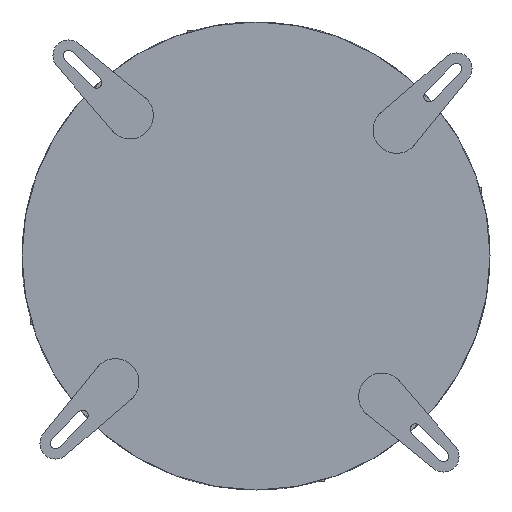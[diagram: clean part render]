
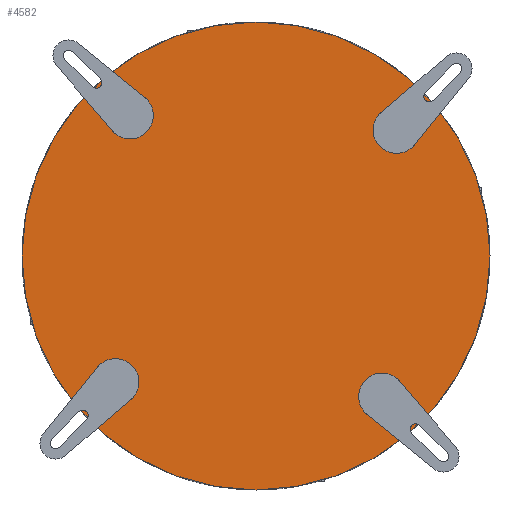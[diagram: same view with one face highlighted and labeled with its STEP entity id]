
A CAD part, front view. The second image highlights one B-rep face of the part: STEP entity #4582.
In plain terms, the highlighted planar face has unit normal (0, -1, 0).
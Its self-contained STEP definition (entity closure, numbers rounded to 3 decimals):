
#1785 = ORIENTED_EDGE ( 'NONE', *, *, #10289, .F. ) ;
#2688 = PLANE ( 'NONE',  #6120 ) ;
#3527 = ORIENTED_EDGE ( 'NONE', *, *, #7166, .F. ) ;
#3852 = CIRCLE ( 'NONE', #9232, 150. ) ;
#4582 = ADVANCED_FACE ( 'NONE', ( #15891 ), #2688, .F. ) ;
#5784 = CARTESIAN_POINT ( 'NONE',  ( 0., -172., -150. ) ) ;
#6052 = CARTESIAN_POINT ( 'NONE',  ( 0., -172., 150. ) ) ;
#6120 = AXIS2_PLACEMENT_3D ( 'NONE', #18436, #11462, #9658 ) ;
#7166 = EDGE_CURVE ( 'NONE', #17630, #18276, #3852, .T. ) ;
#8383 = AXIS2_PLACEMENT_3D ( 'NONE', #14010, #21053, #17660 ) ;
#8689 = DIRECTION ( 'NONE',  ( 0., 0., -1. ) ) ;
#9232 = AXIS2_PLACEMENT_3D ( 'NONE', #15552, #13943, #8689 ) ;
#9658 = DIRECTION ( 'NONE',  ( 1., 0., 0. ) ) ;
#10289 = EDGE_CURVE ( 'NONE', #18276, #17630, #19944, .T. ) ;
#11179 = EDGE_LOOP ( 'NONE', ( #1785, #3527 ) ) ;
#11462 = DIRECTION ( 'NONE',  ( 0., 1., 0. ) ) ;
#13943 = DIRECTION ( 'NONE',  ( 0., 1., 0. ) ) ;
#14010 = CARTESIAN_POINT ( 'NONE',  ( 0., -172., 0. ) ) ;
#15552 = CARTESIAN_POINT ( 'NONE',  ( 0., -172., 0. ) ) ;
#15891 = FACE_OUTER_BOUND ( 'NONE', #11179, .T. ) ;
#17630 = VERTEX_POINT ( 'NONE', #6052 ) ;
#17660 = DIRECTION ( 'NONE',  ( 0., 0., -1. ) ) ;
#18276 = VERTEX_POINT ( 'NONE', #5784 ) ;
#18436 = CARTESIAN_POINT ( 'NONE',  ( 0., -172., 0. ) ) ;
#19944 = CIRCLE ( 'NONE', #8383, 150. ) ;
#21053 = DIRECTION ( 'NONE',  ( 0., 1., 0. ) ) ;
